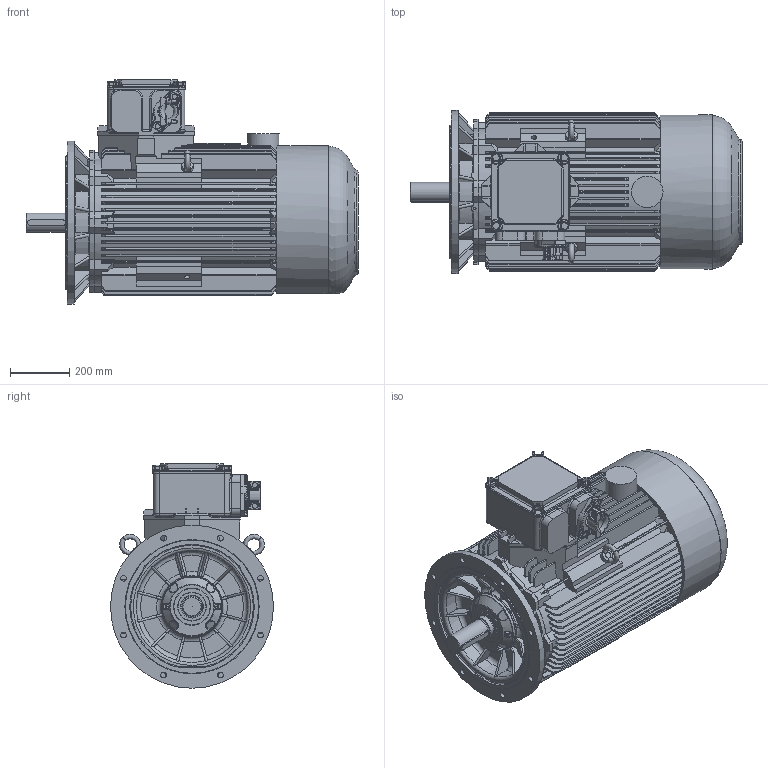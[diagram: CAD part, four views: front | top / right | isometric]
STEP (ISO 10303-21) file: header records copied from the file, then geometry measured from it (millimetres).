
FILE_DESCRIPTION(/* description */ ('Unknown'),/* implementation_level */ '2;1');
FILE_NAME(/* name */ 'EcSTKe250M4-8 IE2-3',/* time_stamp */ '2021-12-16T11:06:59+01:00',/* author */ ('Unknown'),/* organization */ ('Unknown'),/* preprocessor_version */ 'ST-DEVELOPER v16.7',/* originating_system */ 'DEX',/* authorisation */ $);
FILE_SCHEMA (('AUTOMOTIVE_DESIGN {1 0 10303 214 3 1 1}'));
Products named in the file (1): EcSTKe250M4-8 IE2-3
Bounding box: 1120 x 550 x 757 mm (x, y, z)
Volume: 186095461.8 mm3; surface area: 5344812.2 mm2
Topology: 17 solids, 18 shells, 1983 faces, 5282 edges, 3293 vertices
Faces by surface type: plane 757, cylinder 613, torus 227, bspline 188, cone 147, sphere 51
Full cylindrical faces by diameter (mm): 6.647 x2, 8.16 x2, 8.5 x4, 8.917 x1, 10 x6, 10.2 x4, 11 x4, 14.63 x3, 16.4 x2, 17.294 x7, 18.376 x1, 19 x8, 52 x1, 65 x1, 71.5 x1, 72 x1, 106 x1, 124.4 x1, 124.996 x1, 202 x1, 207.997 x1, 450 x1, 550 x1
Entity records: 81566 total; most frequent: CARTESIAN_POINT 20811, ORIENTED_EDGE 10084, DIRECTION 9426, EDGE_CURVE 5042, AXIS2_PLACEMENT_3D 3516, VERTEX_POINT 3227, LINE 2394, VECTOR 2394
